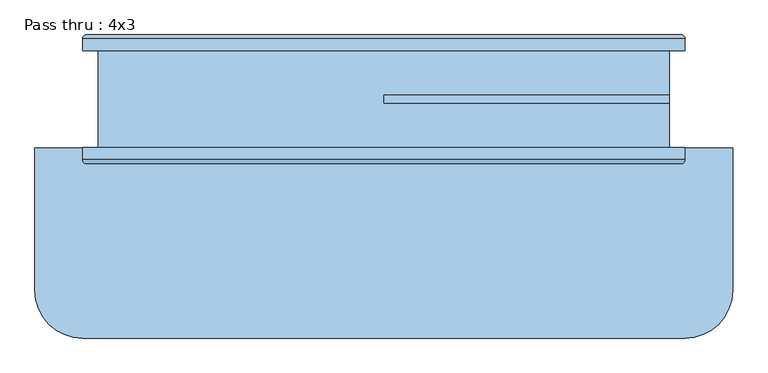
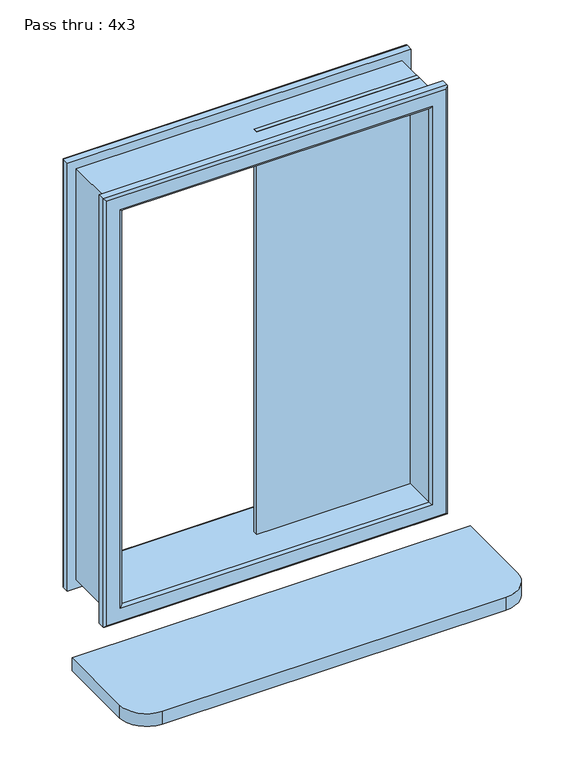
"""IFC4 building model written with IfcOpenShell, lengths in millimetres: window geometry, Pass thru : 4x3."""

from ifc_helpers import new_model, si_unit, point, frame, frame_2d, origin, place, context, project, spatial, polyline, circle_curve, ellipse_curve, trimmed, segment, composite_curve, outline, extrude, source, transform, mapped, element, save
from ifc_brep_helpers import plane_surface, cylinder_surface, advanced_brep


def pass_thru_4x3_19d81059(model_context):
    return source(origin(), model_context, "Body", "SolidModel", [
        extrude(outline(polyline([(457.2, -6.35), (0.0, -6.35), (0.0, 6.35), (457.2, 6.35), (457.2, -6.35)])), frame((0.0, 0.0, 914.4), z_axis=(0.0, 0.0, 1.0), x_axis=(1.0, 0.0, 0.0)), (0.0, 0.0, 1.0), 1219.2),
        advanced_brep(
        [(438.15, -103.1875, 2114.55), (431.8, -96.8375, 2108.2), (431.8, -96.8375, 939.8), (438.15, -103.1875, 933.45), (431.8, 96.8375, 2108.2), (431.8, 96.8375, 939.8), (-431.8, -96.8375, 939.8), (-438.15, -103.1875, 933.45), (-476.25, -103.1875, 2152.65), (-476.25, -103.1875, 895.35), (476.25, -103.1875, 895.35), (476.25, -103.1875, 2152.65), (-438.15, -103.1875, 2114.55), (482.6, -96.8375, 2159.0), (482.6, -96.8375, 889.0), (-482.6, -96.8375, 889.0), (482.6, -77.7875, 2159.0), (482.6, -77.7875, 889.0), (-482.6, -77.7875, 889.0), (-482.6, -77.7875, 2159.0), (-457.2, -77.7875, 2133.6), (-457.2, -77.7875, 914.4), (457.2, -77.7875, 914.4), (457.2, -77.7875, 2133.6), (457.2, 77.7875, 2133.6), (457.2, 77.7875, 914.4), (-457.2, 77.7875, 914.4), (-482.6, 77.7875, 2159.0), (-482.6, 77.7875, 889.0), (482.6, 77.7875, 889.0), (482.6, 77.7875, 2159.0), (-457.2, 77.7875, 2133.6), (482.6, 96.8375, 2159.0), (482.6, 96.8375, 889.0), (-482.6, 96.8375, 889.0), (476.25, 103.1875, 2152.65), (476.25, 103.1875, 895.35), (-476.25, 103.1875, 895.35), (-476.25, 103.1875, 2152.65), (-438.15, 103.1875, 2114.55), (-438.15, 103.1875, 933.45), (438.15, 103.1875, 933.45), (438.15, 103.1875, 2114.55), (-431.8, 96.8375, 939.8), (-431.8, -96.8375, 2108.2), (-482.6, -96.8375, 2159.0), (-482.6, 96.8375, 2159.0), (-431.8, 96.8375, 2108.2)],
        [
            (0, 1, ellipse_curve(frame((438.15, -96.8375, 2114.55), z_axis=(0.7071067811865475, 0.0, -0.7071067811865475), x_axis=(0.7071067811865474, 0.0, 0.7071067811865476)), 8.9802561, 6.35)),
            (1, 2),
            (2, 3, ellipse_curve(frame((438.15, -96.8375, 933.45), z_axis=(0.7071067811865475, 0.0, 0.7071067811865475), x_axis=(-0.7071067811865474, 0.0, 0.7071067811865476)), 8.9802561, 6.35)),
            (3, 0),
            (1, 4),
            (4, 5),
            (5, 2),
            (2, 6),
            (6, 7, ellipse_curve(frame((-438.15, -96.8375, 933.45), z_axis=(0.7071067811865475, 0.0, -0.7071067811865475), x_axis=(0.7071067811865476, 0.0, 0.7071067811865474)), 8.9802561, 6.35)),
            (7, 3),
            (8, 9),
            (9, 10),
            (10, 11),
            (11, 8),
            (7, 12),
            (12, 0),
            (13, 11, ellipse_curve(frame((476.25, -96.8375, 2152.65), z_axis=(0.7071067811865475, 0.0, -0.7071067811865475), x_axis=(0.7071067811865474, 0.0, 0.7071067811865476)), 8.9802561, 6.35)),
            (10, 14, ellipse_curve(frame((476.25, -96.8375, 895.35), z_axis=(0.7071067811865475, 0.0, 0.7071067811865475), x_axis=(-0.7071067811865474, 0.0, 0.7071067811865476)), 8.9802561, 6.35)),
            (14, 13),
            (9, 15, ellipse_curve(frame((-476.25, -96.8375, 895.35), z_axis=(0.7071067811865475, 0.0, -0.7071067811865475), x_axis=(0.7071067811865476, 0.0, 0.7071067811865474)), 8.9802561, 6.35)),
            (15, 14),
            (16, 13),
            (14, 17),
            (17, 16),
            (15, 18),
            (18, 17),
            (18, 19),
            (19, 16),
            (20, 21),
            (21, 22),
            (22, 23),
            (23, 20),
            (24, 23),
            (22, 25),
            (25, 24),
            (21, 26),
            (26, 25),
            (27, 28),
            (28, 29),
            (29, 30),
            (30, 27),
            (26, 31),
            (31, 24),
            (32, 30),
            (29, 33),
            (33, 32),
            (28, 34),
            (34, 33),
            (35, 32, ellipse_curve(frame((476.25, 96.8375, 2152.65), z_axis=(0.7071067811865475, 0.0, -0.7071067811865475), x_axis=(0.7071067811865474, 0.0, 0.7071067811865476)), 8.9802561, 6.35)),
            (33, 36, ellipse_curve(frame((476.25, 96.8375, 895.35), z_axis=(0.7071067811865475, 0.0, 0.7071067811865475), x_axis=(-0.7071067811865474, 0.0, 0.7071067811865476)), 8.9802561, 6.35)),
            (36, 35),
            (34, 37, ellipse_curve(frame((-476.25, 96.8375, 895.35), z_axis=(0.7071067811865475, 0.0, -0.7071067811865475), x_axis=(0.7071067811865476, 0.0, 0.7071067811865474)), 8.9802561, 6.35)),
            (37, 36),
            (37, 38),
            (38, 35),
            (39, 40),
            (40, 41),
            (41, 42),
            (42, 39),
            (4, 42, ellipse_curve(frame((438.15, 96.8375, 2114.55), z_axis=(0.7071067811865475, 0.0, -0.7071067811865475), x_axis=(0.7071067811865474, 0.0, 0.7071067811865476)), 8.9802561, 6.35)),
            (41, 5, ellipse_curve(frame((438.15, 96.8375, 933.45), z_axis=(0.7071067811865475, 0.0, 0.7071067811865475), x_axis=(-0.7071067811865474, 0.0, 0.7071067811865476)), 8.9802561, 6.35)),
            (40, 43, ellipse_curve(frame((-438.15, 96.8375, 933.45), z_axis=(0.7071067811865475, 0.0, -0.7071067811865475), x_axis=(0.7071067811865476, 0.0, 0.7071067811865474)), 8.9802561, 6.35)),
            (43, 5),
            (43, 6),
            (6, 44),
            (44, 12, ellipse_curve(frame((-438.15, -96.8375, 2114.55), z_axis=(-0.7071067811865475, 0.0, -0.7071067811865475), x_axis=(0.7071067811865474, 0.0, -0.7071067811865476)), 8.9802561, 6.35)),
            (8, 45, ellipse_curve(frame((-476.25, -96.8375, 2152.65), z_axis=(-0.7071067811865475, 0.0, -0.7071067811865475), x_axis=(0.7071067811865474, 0.0, -0.7071067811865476)), 8.9802561, 6.35)),
            (45, 15),
            (45, 19),
            (20, 31),
            (27, 46),
            (46, 34),
            (46, 38, ellipse_curve(frame((-476.25, 96.8375, 2152.65), z_axis=(-0.7071067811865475, 0.0, -0.7071067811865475), x_axis=(0.7071067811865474, 0.0, -0.7071067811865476)), 8.9802561, 6.35)),
            (39, 47, ellipse_curve(frame((-438.15, 96.8375, 2114.55), z_axis=(-0.7071067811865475, 0.0, -0.7071067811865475), x_axis=(0.7071067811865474, 0.0, -0.7071067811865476)), 8.9802561, 6.35)),
            (47, 43),
            (47, 44),
            (44, 1),
            (13, 45),
            (32, 46),
            (4, 47),
        ],
        [
            cylinder_surface(frame((438.15, -96.8375, 2133.6), z_axis=(0.0, 0.0, 1.0), x_axis=(0.0, -1.0, 0.0)), 6.35),
            plane_surface(frame((431.8, 96.8375, 2108.2), z_axis=(-1.0, 0.0, 0.0), x_axis=(0.0, 0.0, -1.0))),
            cylinder_surface(frame((457.2, -96.8375, 933.45), z_axis=(1.0, 0.0, 0.0), x_axis=(0.0, -1.0, 0.0)), 6.35),
            plane_surface(frame((-438.15, -103.1875, 933.45), z_axis=(0.0, -1.0, 0.0), x_axis=(0.0, 0.0, 1.0))),
            cylinder_surface(frame((476.25, -96.8375, 2133.6), z_axis=(0.0, 0.0, 1.0), x_axis=(0.0, -1.0, 0.0)), 6.35),
            cylinder_surface(frame((457.2, -96.8375, 895.35), z_axis=(1.0, 0.0, 0.0), x_axis=(0.0, -1.0, 0.0)), 6.35),
            plane_surface(frame((482.6, -96.8375, 2159.0), z_axis=(1.0, 0.0, 0.0), x_axis=(0.0, 0.0, -1.0))),
            plane_surface(frame((482.6, -96.8375, 889.0), z_axis=(0.0, 0.0, -1.0), x_axis=(-1.0, 0.0, 0.0))),
            plane_surface(frame((-482.6, -77.7875, 889.0), z_axis=(0.0, 1.0, 0.0), x_axis=(0.0, 0.0, 1.0))),
            plane_surface(frame((457.2, -77.7875, 2133.6), z_axis=(1.0, 0.0, 0.0), x_axis=(0.0, 0.0, -1.0))),
            plane_surface(frame((457.2, -77.7875, 914.4), z_axis=(0.0, 0.0, -1.0), x_axis=(-1.0, 0.0, 0.0))),
            plane_surface(frame((-457.2, 77.7875, 914.4), z_axis=(0.0, -1.0, 0.0), x_axis=(0.0, 0.0, 1.0))),
            plane_surface(frame((482.6, 77.7875, 2159.0), z_axis=(1.0, 0.0, 0.0), x_axis=(0.0, 0.0, -1.0))),
            plane_surface(frame((482.6, 77.7875, 889.0), z_axis=(0.0, 0.0, -1.0), x_axis=(-1.0, 0.0, 0.0))),
            cylinder_surface(frame((476.25, 96.8375, 2133.6), z_axis=(0.0, 0.0, 1.0), x_axis=(0.0, -1.0, 0.0)), 6.35),
            cylinder_surface(frame((457.2, 96.8375, 895.35), z_axis=(1.0, 0.0, 0.0), x_axis=(0.0, -1.0, 0.0)), 6.35),
            plane_surface(frame((-476.25, 103.1875, 895.35), z_axis=(0.0, 1.0, 0.0), x_axis=(0.0, 0.0, 1.0))),
            cylinder_surface(frame((438.15, 96.8375, 2133.6), z_axis=(0.0, 0.0, 1.0), x_axis=(0.0, -1.0, 0.0)), 6.35),
            cylinder_surface(frame((457.2, 96.8375, 933.45), z_axis=(1.0, 0.0, 0.0), x_axis=(0.0, -1.0, 0.0)), 6.35),
            plane_surface(frame((431.8, 96.8375, 939.8), z_axis=(0.0, 0.0, 1.0), x_axis=(-1.0, 0.0, 0.0))),
            cylinder_surface(frame((-438.15, -96.8375, 914.4), z_axis=(0.0, 0.0, -1.0), x_axis=(0.0, -1.0, 0.0)), 6.35),
            cylinder_surface(frame((-476.25, -96.8375, 914.4), z_axis=(0.0, 0.0, -1.0), x_axis=(0.0, -1.0, 0.0)), 6.35),
            plane_surface(frame((-482.6, -96.8375, 889.0), z_axis=(-1.0, 0.0, 0.0), x_axis=(0.0, 0.0, 1.0))),
            plane_surface(frame((-457.2, -77.7875, 914.4), z_axis=(-1.0, 0.0, 0.0), x_axis=(0.0, 0.0, 1.0))),
            plane_surface(frame((-482.6, 77.7875, 889.0), z_axis=(-1.0, 0.0, 0.0), x_axis=(0.0, 0.0, 1.0))),
            cylinder_surface(frame((-476.25, 96.8375, 914.4), z_axis=(0.0, 0.0, -1.0), x_axis=(0.0, -1.0, 0.0)), 6.35),
            cylinder_surface(frame((-438.15, 96.8375, 914.4), z_axis=(0.0, 0.0, -1.0), x_axis=(0.0, -1.0, 0.0)), 6.35),
            plane_surface(frame((-431.8, 96.8375, 939.8), z_axis=(1.0, 0.0, 0.0), x_axis=(0.0, 0.0, 1.0))),
            cylinder_surface(frame((-457.2, -96.8375, 2114.55), z_axis=(-1.0, 0.0, 0.0), x_axis=(0.0, -1.0, 0.0)), 6.35),
            cylinder_surface(frame((-457.2, -96.8375, 2152.65), z_axis=(-1.0, 0.0, 0.0), x_axis=(0.0, -1.0, 0.0)), 6.35),
            plane_surface(frame((-482.6, -96.8375, 2159.0), z_axis=(0.0, 0.0, 1.0), x_axis=(1.0, 0.0, 0.0))),
            plane_surface(frame((-457.2, -77.7875, 2133.6), z_axis=(0.0, 0.0, 1.0), x_axis=(1.0, 0.0, 0.0))),
            plane_surface(frame((-482.6, 77.7875, 2159.0), z_axis=(0.0, 0.0, 1.0), x_axis=(1.0, 0.0, 0.0))),
            cylinder_surface(frame((-457.2, 96.8375, 2152.65), z_axis=(-1.0, 0.0, 0.0), x_axis=(0.0, -1.0, 0.0)), 6.35),
            cylinder_surface(frame((-457.2, 96.8375, 2114.55), z_axis=(-1.0, 0.0, 0.0), x_axis=(0.0, -1.0, 0.0)), 6.35),
            plane_surface(frame((-431.8, 96.8375, 2108.2), z_axis=(0.0, 0.0, -1.0), x_axis=(1.0, 0.0, 0.0))),
        ],
        [
            (0, [[1, 2, 3, 4]]),
            (1, [[5, 6, 7, -2]]),
            (2, [[-3, 8, 9, 10]]),
            (3, [[11, 12, 13, 14], [-4, -10, 15, 16]]),
            (4, [[17, -13, 18, 19]]),
            (5, [[-18, -12, 20, 21]]),
            (6, [[22, -19, 23, 24]]),
            (7, [[-23, -21, 25, 26]]),
            (8, [[-24, -26, 27, 28], [29, 30, 31, 32]]),
            (9, [[33, -31, 34, 35]]),
            (10, [[-34, -30, 36, 37]]),
            (11, [[38, 39, 40, 41], [-35, -37, 42, 43]]),
            (12, [[44, -40, 45, 46]]),
            (13, [[-45, -39, 47, 48]]),
            (14, [[49, -46, 50, 51]]),
            (15, [[-50, -48, 52, 53]]),
            (16, [[-51, -53, 54, 55], [56, 57, 58, 59]]),
            (17, [[60, -58, 61, -6]]),
            (18, [[-61, -57, 62, 63]]),
            (19, [[-7, -63, 64, -8]]),
            (20, [[-9, 65, 66, -15]]),
            (21, [[-20, -11, 67, 68]]),
            (22, [[-25, -68, 69, -27]]),
            (23, [[-36, -29, 70, -42]]),
            (24, [[-47, -38, 71, 72]]),
            (25, [[-52, -72, 73, -54]]),
            (26, [[-62, -56, 74, 75]]),
            (27, [[-64, -75, 76, -65]]),
            (28, [[-66, 77, -1, -16]]),
            (29, [[-67, -14, -17, 78]]),
            (30, [[-69, -78, -22, -28]]),
            (31, [[-70, -32, -33, -43]]),
            (32, [[-71, -41, -44, 79]]),
            (33, [[-73, -79, -49, -55]]),
            (34, [[-74, -59, -60, 80]]),
            (35, [[-76, -80, -5, -77]]),
        ],
    ),
        extrude(outline(composite_curve([segment(polyline([(558.8, -77.7875), (558.8, -306.3875)]), True, "CONTINUOUS"), segment(trimmed(circle_curve(frame_2d((482.6, -306.3875)), 76.2), [point((558.8, -306.3875))], [point((482.6, -382.5875))], False, "CARTESIAN"), True, "CONTINUOUS"), segment(polyline([(482.6, -382.5875), (-482.6, -382.5875)]), True, "CONTINUOUS"), segment(trimmed(circle_curve(frame_2d((-482.6, -306.3875)), 76.2), [point((-482.6, -382.5875))], [point((-558.8, -306.3875))], False, "CARTESIAN"), True, "CONTINUOUS"), segment(polyline([(-558.8, -306.3875), (-558.8, -77.7875), (558.8, -77.7875)]), True, "CONTINUOUS")], self_intersect=False)), frame((0.0, 0.0, 774.7), z_axis=(0.0, 0.0, 1.0), x_axis=(1.0, 0.0, 0.0)), (0.0, 0.0, 1.0), 38.1),
    ])


if __name__ == "__main__":
    model = new_model("IFC4")
    model_context = context("Model", 3, world=origin())
    ifc_project = project(units=[si_unit("LENGTHUNIT", "METRE", prefix="MILLI")], contexts=[model_context])
    site = spatial("IfcSite", under=ifc_project)
    building = spatial("IfcBuilding", under=site)
    placement = place(None, origin())
    pass_thru_4x3_shape = pass_thru_4x3_19d81059(model_context)
    element("IfcWindow", 1, ObjectType="Pass thru : 4x3", at=placement, inside=building, context=model_context, shape_type="MappedRepresentation", body=[
        mapped(pass_thru_4x3_shape, transform((0.0, 0.0, 0.0), x_axis=(1.0, 0.0, 0.0), y_axis=(0.0, 1.0, 0.0), z_axis=(0.0, 0.0, 1.0))),
    ])
    save(model, "model.ifc")
